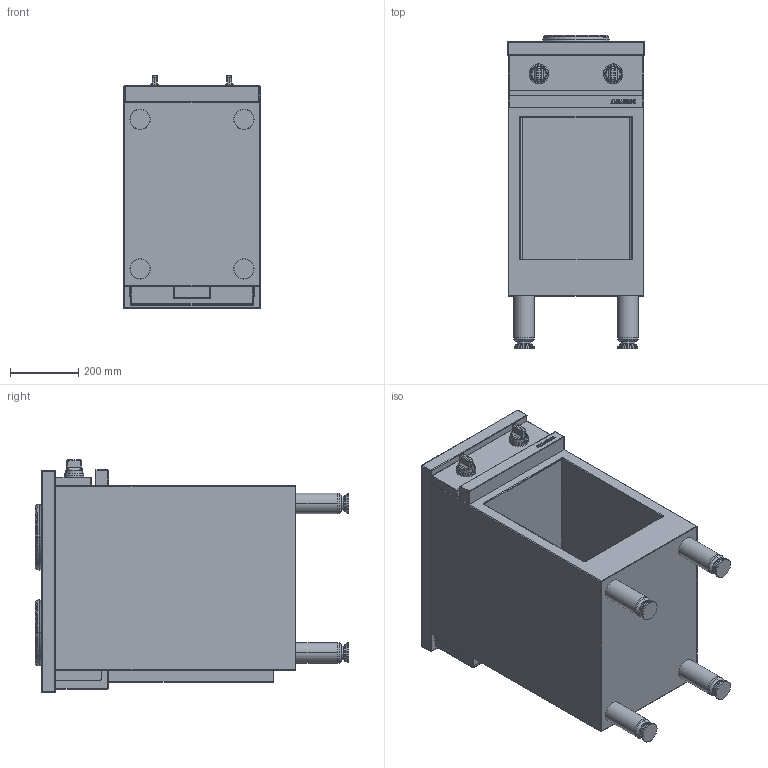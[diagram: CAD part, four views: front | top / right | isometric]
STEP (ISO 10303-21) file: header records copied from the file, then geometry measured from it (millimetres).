
FILE_DESCRIPTION((''),'2;1');
FILE_NAME('CME420E_EXPORT_STEP_ASM','2017-11-22T',('r.avril'),(''),'PRO/ENGINEER BY PARAMETRIC TECHNOLOGY CORPORATION, 2014200','PRO/ENGINEER BY PARAMETRIC TECHNOLOGY CORPORATION, 2014200','');
FILE_SCHEMA(('AP203_CONFIGURATION_CONTROLLED_3D_DESIGN_OF_MECHANICAL_PARTS_AND_ASSEMBLIES_MIM_LF { 1 0 10303 403 2 1 2 }'));
Length unit declared in the file: millimetre
Products named in the file (5): MODULES_AMB_400_EXPORT_STEP; TABLE_420_PLQ_ELEC; TABLE_420_PLQ_ELEC_ASM; MANETTE_AMB_EXPORT_STEP; CME420E_EXPORT_STEP_ASM
Assembly tree (5 placements, depth 3):
  CME420E_EXPORT_STEP_ASM
    MODULES_AMB_400_EXPORT_STEP
    TABLE_420_PLQ_ELEC_ASM
      TABLE_420_PLQ_ELEC
    MANETTE_AMB_EXPORT_STEP  x2
Bounding box: 400 x 918.8 x 682.5 mm (x, y, z)
Volume: 56739383.9 mm3; surface area: 4079493.3 mm2
Topology: 14 solids, 32 shells, 454 faces, 1623 edges, 1472 vertices
Faces by surface type: cylinder 139, plane 139, torus 64, sphere 44, cone 44, bspline 24
Entity records: 20795 total; most frequent: CARTESIAN_POINT 5556, DIRECTION 2487, ORIENTED_EDGE 2084, EDGE_CURVE 1267, VERTEX_POINT 921, AXIS2_PLACEMENT_3D 912, VECTOR 648, LINE 648
